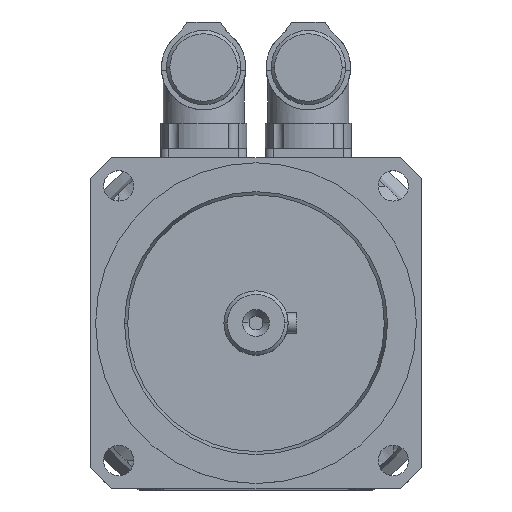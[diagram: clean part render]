
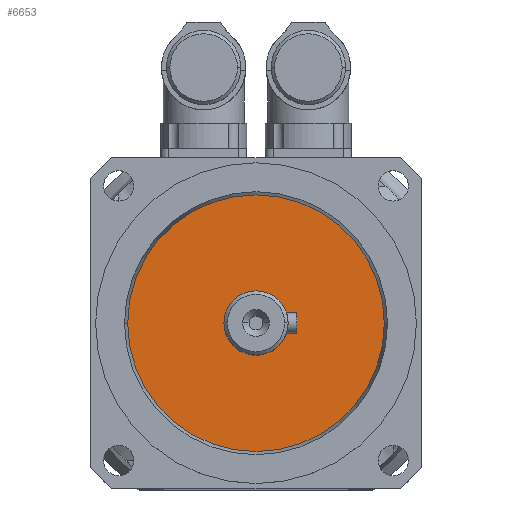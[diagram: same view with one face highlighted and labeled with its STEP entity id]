
A CAD part, top view. The second image highlights one B-rep face of the part: STEP entity #6653.
In plain terms, the highlighted free-form (B-spline) face has degree [1, 1] with [2, 2] control points.
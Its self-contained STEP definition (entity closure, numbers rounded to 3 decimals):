
#6323=CARTESIAN_POINT('',(-9.5,0.,220.5));
#6324=VERTEX_POINT('',#6323);
#6333=CARTESIAN_POINT('',(9.5,0.,220.5));
#6334=VERTEX_POINT('',#6333);
#6335=CARTESIAN_POINT('',(0.0,0.0,220.5));
#6336=DIRECTION('',(0.0,0.0,-1.0));
#6337=DIRECTION('',(-1.0,0.0,0.0));
#6338=AXIS2_PLACEMENT_3D('',#6335,#6336,#6337);
#6339=CIRCLE('',#6338,9.5);
#6340=EDGE_CURVE('',#6334,#6324,#6339,.T.);
#6593=CARTESIAN_POINT('',(38.0,0.0,220.5));
#6594=VERTEX_POINT('',#6593);
#6610=CARTESIAN_POINT('',(-38.0,0.,220.5));
#6611=VERTEX_POINT('',#6610);
#6618=CARTESIAN_POINT('',(0.0,0.0,220.5));
#6619=DIRECTION('',(0.0,0.0,1.0));
#6620=DIRECTION('',(1.0,0.0,0.0));
#6621=AXIS2_PLACEMENT_3D('',#6618,#6619,#6620);
#6622=CIRCLE('',#6621,38.0);
#6623=EDGE_CURVE('',#6594,#6611,#6622,.T.);
#6628=CARTESIAN_POINT('',(-38.0,38.0,220.5));
#6629=CARTESIAN_POINT('',(38.0,38.0,220.5));
#6630=CARTESIAN_POINT('',(-38.0,-38.0,220.5));
#6631=CARTESIAN_POINT('',(38.0,-38.0,220.5));
#6632=B_SPLINE_SURFACE_WITH_KNOTS('',1,1,((#6628,#6630),(#6629,#6631)),.UNSPECIFIED.,.F.,.F.,.U.,(2,2),(2,2),(0.0,76.0),(0.0,76.0),.UNSPECIFIED.);
#6633=ORIENTED_EDGE('',*,*,#6623,.T.);
#6634=CARTESIAN_POINT('',(0.0,0.0,220.5));
#6635=DIRECTION('',(0.0,0.0,1.0));
#6636=DIRECTION('',(1.0,0.0,0.0));
#6637=AXIS2_PLACEMENT_3D('',#6634,#6635,#6636);
#6638=CIRCLE('',#6637,38.0);
#6639=EDGE_CURVE('',#6611,#6594,#6638,.T.);
#6640=ORIENTED_EDGE('',*,*,#6639,.T.);
#6641=EDGE_LOOP('',(#6633,#6640));
#6642=FACE_OUTER_BOUND('',#6641,.T.);
#6643=ORIENTED_EDGE('',*,*,#6340,.T.);
#6644=CARTESIAN_POINT('',(0.0,0.0,220.5));
#6645=DIRECTION('',(0.0,0.0,-1.0));
#6646=DIRECTION('',(-1.0,0.0,0.0));
#6647=AXIS2_PLACEMENT_3D('',#6644,#6645,#6646);
#6648=CIRCLE('',#6647,9.5);
#6649=EDGE_CURVE('',#6324,#6334,#6648,.T.);
#6650=ORIENTED_EDGE('',*,*,#6649,.T.);
#6651=EDGE_LOOP('',(#6643,#6650));
#6652=FACE_BOUND('',#6651,.T.);
#6653=ADVANCED_FACE('',(#6642,#6652),#6632,.F.);
